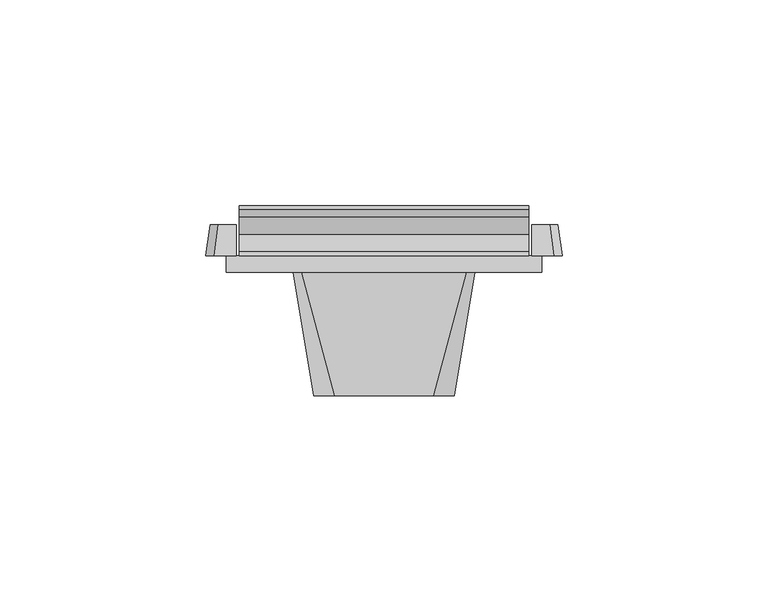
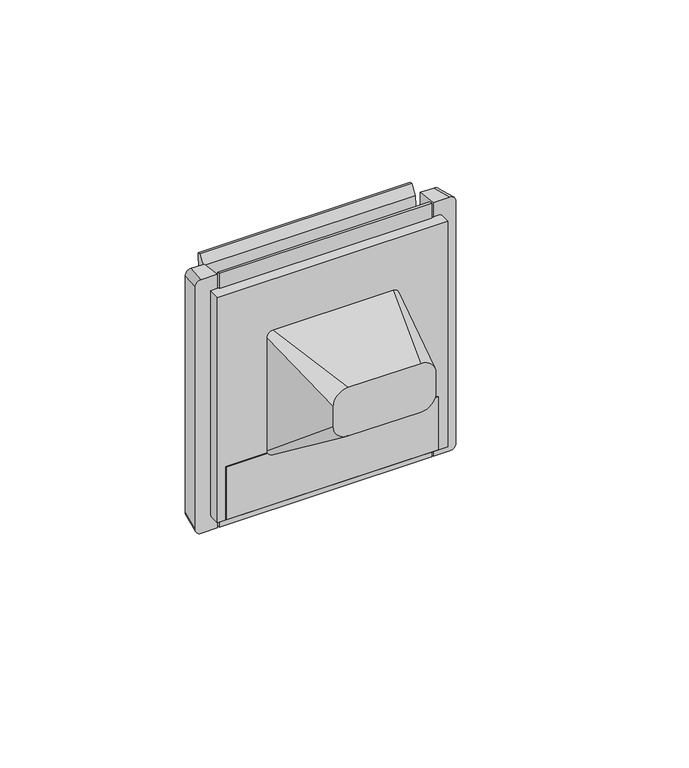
"""IFC4 building model written with IfcOpenShell, lengths in millimetres: proxy geometry, IEK_Forte&Piano_Выключатель : ВК_FP143."""

from ifc_helpers import new_model, si_unit, point, frame, origin, place, context, project, spatial, polyline, circle_curve, trimmed, outline, extrude, source, transform, mapped, element, save
from ifc_brep_helpers import plane_surface, extruded_surface, spline_surface, advanced_brep


def electrical_fixtures_b692d808(model_context):
    return source(origin(), model_context, "Body", "SolidModel", [
        extrude(outline(polyline([(0.0, 0.0), (2.785732, 0.0), (2.785732, -2.785732), (0.0, 0.0)])), frame((1.98962, 15.2527713, 18.5534803), z_axis=(0.0, -0.9986295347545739, 0.05233595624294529), x_axis=(-0.707106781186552, -0.0370071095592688, -0.7061377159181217)), (0.0, 0.0, 1.0), 0.5),
        extrude(outline(polyline([(0.0, -21.0), (7.8895282, -21.0), (13.359194, 41.5185661), (15.2886793, 44.584583), (16.1125399, 44.5125045), (11.5, -43.5), (4.0, -44.5), (4.0, -39.5), (0.0, -39.5), (0.0, -21.0)])), frame((-35.2, 0.0, 0.0), z_axis=(1.0, 0.0, 0.0), x_axis=(0.0, 1.0, 0.0)), (0.0, 0.0, 1.0), 70.4),
        extrude(outline(polyline([(5.0, 44.3666667), (5.0, 22.0), (9.0854614, 0.9821231), (7.2497635, -20.0), (4.0, -20.0), (4.0, 44.5), (5.0, 44.3666667)])), frame((-35.2, 0.0, 0.0), z_axis=(1.0, 0.0, 0.0), x_axis=(0.0, 1.0, 0.0)), (0.0, 0.0, 1.0), 70.4),
        advanced_brep(
        [(35.8576533, 11.5, 43.5), (35.8576533, 11.5, -43.5), (35.8576533, 4.0, -44.5), (35.8576533, 4.0, -39.5), (35.8576533, 4.0, 39.5), (35.8576533, 4.0, 44.5), (-35.8576533, 11.5, -43.5), (-35.8576533, 11.5, 43.5), (-35.8576533, 4.0, 44.5), (-35.8576533, 4.0, 39.5), (-35.8576533, 4.0, -39.5), (-35.8576533, 4.0, -44.5), (40.25, 11.5, 43.5), (42.25, 11.5, 41.5), (42.25, 11.5, -41.5), (40.25, 11.5, -43.5), (-40.25, 11.5, -43.5), (-42.25, 11.5, -41.5), (-42.25, 11.5, 41.5), (-40.25, 11.5, 43.5), (-41.25, 4.0, 44.5), (-43.25, 4.0, 42.5), (-43.25, 4.0, -42.5), (-41.25, 4.0, -44.5), (-38.25, 4.0, -39.5), (-38.25, 4.0, 39.5), (41.25, 4.0, -44.5), (43.25, 4.0, -42.5), (43.25, 4.0, 42.5), (41.25, 4.0, 44.5), (38.25, 4.0, 39.5), (38.25, 4.0, -39.5), (-38.25, 0.0, 39.5), (-38.25, 0.0, -39.5), (38.25, 0.0, -39.5), (38.25, 0.0, 39.5)],
        [
            (0, 1),
            (1, 2),
            (2, 3),
            (3, 4),
            (4, 5),
            (5, 0),
            (6, 7),
            (7, 8),
            (8, 9),
            (9, 10),
            (10, 11),
            (11, 6),
            (12, 13, circle_curve(frame((40.25, 11.5, 41.5), z_axis=(0.0, 1.0, 0.0), x_axis=(-1.0, 0.0, 0.0)), 2.0)),
            (13, 14),
            (14, 15, circle_curve(frame((40.25, 11.5, -41.5), z_axis=(0.0, 1.0, 0.0), x_axis=(-1.0, 0.0, 0.0)), 2.0)),
            (15, 1),
            (0, 12),
            (16, 17, circle_curve(frame((-40.25, 11.5, -41.5), z_axis=(0.0, 1.0, 0.0), x_axis=(-1.0, 0.0, 0.0)), 2.0)),
            (17, 18),
            (18, 19, circle_curve(frame((-40.25, 11.5, 41.5), z_axis=(0.0, 1.0, 0.0), x_axis=(-1.0, 0.0, 0.0)), 2.0)),
            (19, 7),
            (6, 16),
            (20, 21, circle_curve(frame((-41.25, 4.0, 42.5), z_axis=(0.0, -1.0, 0.0), x_axis=(-1.0, 0.0, 0.0)), 2.0)),
            (21, 22),
            (22, 23, circle_curve(frame((-41.25, 4.0, -42.5), z_axis=(0.0, -1.0, 0.0), x_axis=(-1.0, 0.0, 0.0)), 2.0)),
            (23, 11),
            (10, 24),
            (24, 25),
            (25, 9),
            (8, 20),
            (26, 27, circle_curve(frame((41.25, 4.0, -42.5), z_axis=(0.0, -1.0, 0.0), x_axis=(-1.0, 0.0, 0.0)), 2.0)),
            (27, 28),
            (28, 29, circle_curve(frame((41.25, 4.0, 42.5), z_axis=(0.0, -1.0, 0.0), x_axis=(-1.0, 0.0, 0.0)), 2.0)),
            (29, 5),
            (4, 30),
            (30, 31),
            (31, 3),
            (2, 26),
            (29, 12),
            (19, 20),
            (28, 13),
            (27, 14),
            (26, 15),
            (23, 16),
            (22, 17),
            (21, 18),
            (3, 10),
            (9, 4),
            (32, 33),
            (33, 34),
            (34, 35),
            (35, 32),
            (32, 25),
            (24, 33),
            (31, 34),
            (30, 35),
        ],
        [
            plane_surface(frame((35.8576533, 11.5, 44.5), z_axis=(-1.0, 0.0, 0.0), x_axis=(0.0, -1.0, 0.0))),
            plane_surface(frame((-35.8576533, 11.5, -44.5), z_axis=(1.0, 0.0, 0.0), x_axis=(0.0, -1.0, 0.0))),
            plane_surface(frame((0.0, 11.5, 0.0), z_axis=(0.0, 1.0, 0.0), x_axis=(1.0, 0.0, 0.0))),
            plane_surface(frame((0.0, 4.0, 0.0), z_axis=(0.0, -1.0, 0.0), x_axis=(1.0, 0.0, 0.0))),
            plane_surface(frame((0.0, 4.0, 44.5), z_axis=(0.0, 0.13216372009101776, 0.9912279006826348), x_axis=(1.0, 0.0, 0.0))),
            extruded_surface(trimmed(circle_curve(frame((41.25, 4.0, 42.5), z_axis=(0.0, 1.0, 0.0), x_axis=(-1.0, 0.0, 0.0)), 2.0), [point((41.25, 4.0, 44.5))], [point((43.25, 4.0, 42.5))], True, "CARTESIAN"), (-1.0, 7.5, -1.0), 7.632168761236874),
            plane_surface(frame((43.25, 4.0, 0.0), z_axis=(0.9912279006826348, 0.13216372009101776, 0.0), x_axis=(0.0, 0.0, -1.0))),
            extruded_surface(trimmed(circle_curve(frame((41.25, 4.0, -42.5), z_axis=(0.0, 1.0, 0.0), x_axis=(-1.0, 0.0, 0.0)), 2.0), [point((43.25, 4.0, -42.5))], [point((41.25, 4.0, -44.5))], True, "CARTESIAN"), (-1.0, 7.5, 1.0), 7.632168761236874),
            plane_surface(frame((0.0, 4.0, -44.5), z_axis=(0.0, 0.13216372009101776, -0.9912279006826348), x_axis=(-1.0, 0.0, 0.0))),
            extruded_surface(trimmed(circle_curve(frame((-41.25, 4.0, -42.5), z_axis=(0.0, 1.0, 0.0), x_axis=(-1.0, 0.0, 0.0)), 2.0), [point((-41.25, 4.0, -44.5))], [point((-43.25, 4.0, -42.5))], True, "CARTESIAN"), (1.0, 7.5, 1.0), 7.632168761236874),
            plane_surface(frame((-43.25, 4.0, 0.0), z_axis=(-0.9912279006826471, 0.13216372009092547, 0.0), x_axis=(0.0, 0.0, 1.0))),
            extruded_surface(trimmed(circle_curve(frame((-41.25, 4.0, 42.5), z_axis=(0.0, 1.0, 0.0), x_axis=(-1.0, 0.0, 0.0)), 2.0), [point((-43.25, 4.0, 42.5))], [point((-41.25, 4.0, 44.5))], True, "CARTESIAN"), (1.0, 7.5, -1.0), 7.632168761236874),
            plane_surface(frame((-38.25, 4.0, 39.5), z_axis=(0.0, 1.0, 0.0), x_axis=(0.0, 0.0, 1.0))),
            plane_surface(frame((-38.25, 0.0, 39.5), z_axis=(0.0, -1.0, 0.0), x_axis=(0.0, 0.0, -1.0))),
            plane_surface(frame((-38.25, 0.0, 39.5), z_axis=(-1.0, 0.0, 0.0), x_axis=(0.0, 1.0, 0.0))),
            plane_surface(frame((-38.25, 0.0, -39.5), z_axis=(0.0, 0.0, -1.0), x_axis=(0.0, 1.0, 0.0))),
            plane_surface(frame((38.25, 0.0, -39.5), z_axis=(1.0, 0.0, 0.0), x_axis=(0.0, 1.0, 0.0))),
            plane_surface(frame((38.25, 0.0, 39.5), z_axis=(0.0, 0.0, 1.0), x_axis=(0.0, 1.0, 0.0))),
        ],
        [
            (0, [[1, 2, 3, 4, 5, 6]]),
            (1, [[7, 8, 9, 10, 11, 12]]),
            (2, [[13, 14, 15, 16, -1, 17]]),
            (2, [[18, 19, 20, 21, -7, 22]]),
            (3, [[23, 24, 25, 26, -11, 27, 28, 29, -9, 30]]),
            (3, [[31, 32, 33, 34, -5, 35, 36, 37, -3, 38]]),
            (4, [[39, -17, -6, -34]]),
            (4, [[40, -30, -8, -21]]),
            (5, [[-13, -39, -33, 41]]),
            (6, [[-14, -41, -32, 42]]),
            (7, [[-15, -42, -31, 43]]),
            (8, [[-43, -38, -2, -16]]),
            (8, [[44, -22, -12, -26]]),
            (9, [[-18, -44, -25, 45]]),
            (10, [[-19, -45, -24, 46]]),
            (11, [[-20, -46, -23, -40]]),
            (12, [[47, -10, 48, -4]]),
            (13, [[49, 50, 51, 52]]),
            (14, [[-49, 53, -28, 54]]),
            (15, [[-50, -54, -27, -47, -37, 55]]),
            (16, [[-51, -55, -36, 56]]),
            (17, [[-52, -56, -35, -48, -29, -53]]),
        ],
    ),
        advanced_brep(
        [(-12.0, -30.0, 17.0), (-17.0, -30.0, 12.0), (-17.0, -30.0, 5.0), (-12.0, -30.0, 0.0), (12.0, -30.0, 0.0), (17.0, -30.0, 5.0), (17.0, -30.0, 12.0), (12.0, -30.0, 17.0), (-20.0, 0.0, 22.0), (20.0, 0.0, 22.0), (22.0, 0.0, 20.0), (22.0, 0.0, -20.0), (20.0, 0.0, -22.0), (-20.0, 0.0, -22.0), (-22.0, 0.0, -20.0), (-22.0, 0.0, 20.0)],
        [
            (0, 1, circle_curve(frame((-12.0, -30.0, 12.0), z_axis=(0.0, -1.0, 0.0), x_axis=(1.0, 0.0, 0.0)), 5.0)),
            (1, 2),
            (2, 3, circle_curve(frame((-12.0, -30.0, 5.0), z_axis=(0.0, -1.0, 0.0), x_axis=(1.0, 0.0, 0.0)), 5.0)),
            (3, 4),
            (4, 5, circle_curve(frame((12.0, -30.0, 5.0), z_axis=(0.0, -1.0, 0.0), x_axis=(1.0, 0.0, 0.0)), 5.0)),
            (5, 6),
            (6, 7, circle_curve(frame((12.0, -30.0, 12.0), z_axis=(0.0, -1.0, 0.0), x_axis=(1.0, 0.0, 0.0)), 5.0)),
            (7, 0),
            (8, 9),
            (9, 10, circle_curve(frame((20.0, 0.0, 20.0), z_axis=(0.0, 1.0, 0.0), x_axis=(1.0, 0.0, 0.0)), 2.0)),
            (10, 11),
            (11, 12, circle_curve(frame((20.0, 0.0, -20.0), z_axis=(0.0, 1.0, 0.0), x_axis=(1.0, 0.0, 0.0)), 2.0)),
            (12, 13),
            (13, 14, circle_curve(frame((-20.0, 0.0, -20.0), z_axis=(0.0, 1.0, 0.0), x_axis=(1.0, 0.0, 0.0)), 2.0)),
            (14, 15),
            (15, 8, circle_curve(frame((-20.0, 0.0, 20.0), z_axis=(0.0, 1.0, 0.0), x_axis=(1.0, 0.0, 0.0)), 2.0)),
            (8, 0),
            (7, 9),
            (6, 10),
            (5, 11),
            (4, 12),
            (3, 13),
            (2, 14),
            (1, 15),
        ],
        [
            plane_surface(frame((0.0, -30.0, 8.5), z_axis=(0.0, -1.0, 0.0), x_axis=(-1.0, 0.0, 0.0))),
            plane_surface(frame((0.0, 0.0, 0.0), z_axis=(0.0, 1.0, 0.0), x_axis=(-1.0, 0.0, 0.0))),
            plane_surface(frame((0.0, 0.0, 22.0), z_axis=(0.0, -0.16439898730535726, 0.9863939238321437), x_axis=(-1.0, 0.0, 0.0))),
            spline_surface(2, 1, [[(22.0, 0.0, 20.0), (17.0, -30.0, 12.0)], [(22.0, 0.0, 22.0), (17.0, -30.0, 17.0)], [(20.0, 0.0, 22.0), (12.0, -30.0, 17.0)]], [3, 3], [2, 2], [0.0, 1.0], [0.0, 1.0], weights=[[1.0, 1.0], [0.7071067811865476, 0.7071067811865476], [1.0, 1.0]]),
            plane_surface(frame((22.0, 0.0, 0.0), z_axis=(0.9863939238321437, -0.1643989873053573, 0.0), x_axis=(0.0, 0.0, 1.0))),
            spline_surface(2, 1, [[(20.0, 0.0, -22.0), (12.0, -30.0, 0.0)], [(22.0, 0.0, -22.0), (17.0, -30.0, 0.0)], [(22.0, 0.0, -20.0), (17.0, -30.0, 5.0)]], [3, 3], [2, 2], [0.0, 1.0], [0.0, 1.0], weights=[[1.0, 1.0], [0.7071067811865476, 0.7071067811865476], [1.0, 1.0]]),
            plane_surface(frame((0.0, 0.0, -22.0), z_axis=(0.0, -0.591363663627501, -0.8064049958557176), x_axis=(1.0, 0.0, 0.0))),
            spline_surface(2, 1, [[(-22.0, 0.0, -20.0), (-17.0, -30.0, 5.0)], [(-22.0, 0.0, -22.0), (-17.0, -30.0, 0.0)], [(-20.0, 0.0, -22.0), (-12.0, -30.0, 0.0)]], [3, 3], [2, 2], [0.0, 1.0], [0.0, 1.0], weights=[[1.0, 1.0], [0.7071067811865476, 0.7071067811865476], [1.0, 1.0]]),
            plane_surface(frame((-22.0, 0.0, 0.0), z_axis=(-0.9863939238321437, -0.1643989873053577, 0.0), x_axis=(0.0, 0.0, -1.0))),
            spline_surface(2, 1, [[(-20.0, 0.0, 22.0), (-12.0, -30.0, 17.0)], [(-22.0, 0.0, 22.0), (-17.0, -30.0, 17.0)], [(-22.0, 0.0, 20.0), (-17.0, -30.0, 12.0)]], [3, 3], [2, 2], [0.0, 1.0], [0.0, 1.0], weights=[[1.0, 1.0], [0.7071067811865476, 0.7071067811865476], [1.0, 1.0]]),
        ],
        [
            (0, [[1, 2, 3, 4, 5, 6, 7, 8]]),
            (1, [[9, 10, 11, 12, 13, 14, 15, 16]]),
            (2, [[-9, 17, -8, 18]]),
            (3, [[-10, -18, -7, 19]]),
            (4, [[-11, -19, -6, 20]]),
            (5, [[-12, -20, -5, 21]]),
            (6, [[-13, -21, -4, 22]]),
            (7, [[-14, -22, -3, 23]]),
            (8, [[-15, -23, -2, 24]]),
            (9, [[-16, -24, -1, -17]]),
        ],
    ),
    ])


if __name__ == "__main__":
    model = new_model("IFC4")
    model_context = context("Model", 3, world=origin())
    ifc_project = project(units=[si_unit("LENGTHUNIT", "METRE", prefix="MILLI")], contexts=[model_context])
    site = spatial("IfcSite", under=ifc_project)
    building = spatial("IfcBuilding", under=site)
    placement = place(None, origin())
    electrical_fixtures_shape = electrical_fixtures_b692d808(model_context)
    element("IfcBuildingElementProxy", 1, Name="IEK_Forte&Piano_Выключатель : ВК_FP143", ObjectType="IEK_Forte&Piano_Выключатель : ВК_FP143", at=placement, inside=building, context=model_context, shape_type="MappedRepresentation", body=[
        mapped(electrical_fixtures_shape, transform((0.0, 0.0, 0.0), x_axis=(1.0, 0.0, 0.0), y_axis=(0.0, 1.0, 0.0), z_axis=(0.0, 0.0, 1.0))),
    ])
    save(model, "model.ifc")
